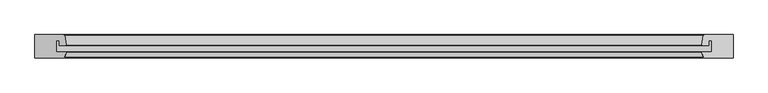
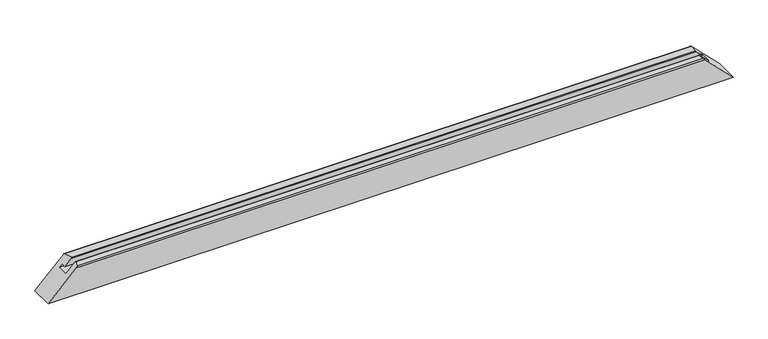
"""IFC4 building model written with IfcOpenShell, lengths in millimetres: proxy geometry, Weiku - Montante - Caixilho fixo 02.2.01.005 : Weiku - Montante - Caixilho fixo 02.2.01.005."""

from ifc_helpers import new_model, si_unit, frame, origin, place, context, project, spatial, ellipse_curve, source, transform, mapped, element, save
from ifc_brep_helpers import plane_surface, cylinder_surface, advanced_brep


def generic_models_b6c85634(model_context):
    return source(origin(), model_context, "Body", "AdvancedBrep", [
        advanced_brep(
        [(-680.618227, -38.5070552, 66.881773), (-681.3909676, -37.5, 66.1090324), (-701.5, -37.5, 46.0), (-701.5, -12.5, 46.0), (-695.5009154, -12.5, 51.9990846), (-695.5009154, -23.5, 51.9990846), (-681.4865015, -23.5, 66.0134985), (-680.4998537, -22.3371317, 67.0001463), (-684.0489094, -0.8371317, 63.4510906), (-685.0355572, 0.0, 62.4644428), (-747.5, 0.0, 0.0), (-747.5, -50.0, 0.0), (-685.9997332, -50.0, 61.5002668), (-683.1019557, -47.7764571, 64.3980443), (683.1019557, -47.7764571, 64.3980443), (685.9997332, -50.0, 61.5002668), (747.5, -50.0, 0.0), (747.5, 0.0, 0.0), (685.0355572, 0.0, 62.4644428), (684.0489094, -0.8371317, 63.4510906), (680.4998537, -22.3371317, 67.0001463), (681.4865015, -23.5, 66.0134985), (695.5009154, -23.5, 51.9990846), (695.5009154, -12.5, 51.9990846), (701.5, -12.5, 46.0), (701.5, -37.5, 46.0), (681.3909676, -37.5, 66.1090324), (680.618227, -38.5070552, 66.881773)],
        [
            (0, 1, ellipse_curve(frame((-681.3909676, -38.3, 66.1090324), z_axis=(-0.7071067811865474, 0.0, 0.7071067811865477), x_axis=(-0.7071067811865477, 0.0, -0.7071067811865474)), 1.1313708, 0.8)),
            (1, 2),
            (2, 3),
            (3, 4),
            (4, 5),
            (5, 6),
            (6, 7, ellipse_curve(frame((-681.4865015, -22.5, 66.0134985), z_axis=(-0.7071067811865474, 0.0, 0.7071067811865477), x_axis=(-0.7071067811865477, 0.0, -0.7071067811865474)), 1.4142136, 1.0)),
            (7, 8),
            (8, 9, ellipse_curve(frame((-685.0355572, -1.0, 62.4644428), z_axis=(-0.7071067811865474, 0.0, 0.7071067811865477), x_axis=(-0.7071067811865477, 0.0, -0.7071067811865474)), 1.4142136, 1.0)),
            (9, 10),
            (10, 11),
            (11, 12),
            (12, 13, ellipse_curve(frame((-685.9997332, -47.0, 61.5002668), z_axis=(-0.7071067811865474, 0.0, 0.7071067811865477), x_axis=(-0.7071067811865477, 0.0, -0.7071067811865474)), 4.2426407, 3.0)),
            (13, 0),
            (14, 15, ellipse_curve(frame((685.9997332, -47.0, 61.5002668), z_axis=(0.7071067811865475, 0.0, 0.7071067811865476), x_axis=(-0.7071067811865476, 0.0, 0.7071067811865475)), 4.2426407, 3.0)),
            (15, 16),
            (16, 17),
            (17, 18),
            (18, 19, ellipse_curve(frame((685.0355572, -1.0, 62.4644428), z_axis=(0.7071067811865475, 0.0, 0.7071067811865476), x_axis=(-0.7071067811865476, 0.0, 0.7071067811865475)), 1.4142136, 1.0)),
            (19, 20),
            (20, 21, ellipse_curve(frame((681.4865015, -22.5, 66.0134985), z_axis=(0.7071067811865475, 0.0, 0.7071067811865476), x_axis=(-0.7071067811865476, 0.0, 0.7071067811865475)), 1.4142136, 1.0)),
            (21, 22),
            (22, 23),
            (23, 24),
            (24, 25),
            (25, 26),
            (26, 27, ellipse_curve(frame((681.3909676, -38.3, 66.1090324), z_axis=(0.7071067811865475, 0.0, 0.7071067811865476), x_axis=(-0.7071067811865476, 0.0, 0.7071067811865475)), 1.1313708, 0.8)),
            (27, 14),
            (13, 14),
            (27, 0),
            (12, 15),
            (11, 16),
            (10, 17),
            (9, 18),
            (8, 19),
            (7, 20),
            (6, 21),
            (5, 22),
            (4, 23),
            (3, 24),
            (2, 25),
            (1, 26),
        ],
        [
            plane_surface(frame((-817.5, 15.0, -70.0), z_axis=(-0.7071067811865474, 0.0, 0.7071067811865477), x_axis=(0.0, -1.0, 0.0))),
            plane_surface(frame((677.5, 15.0, 70.0), z_axis=(0.7071067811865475, 0.0, 0.7071067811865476), x_axis=(0.0, -1.0, 0.0))),
            plane_surface(frame((-747.5, -38.5070552, 66.881773), z_axis=(0.0, -0.2588190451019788, 0.9659258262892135), x_axis=(1.0, 0.0, 0.0))),
            cylinder_surface(frame((-747.5, -47.0, 61.5002668), z_axis=(-1.0, 0.0, 0.0), x_axis=(0.0, 1.0, 0.0)), 3.0),
            plane_surface(frame((-747.5, -50.0, 61.5002668), z_axis=(0.0, -1.0, 0.0), x_axis=(1.0, 0.0, 0.0))),
            plane_surface(frame((-747.5, -50.0, 0.0), z_axis=(0.0, 0.0, -1.0), x_axis=(1.0, 0.0, 0.0))),
            plane_surface(frame((-747.5, 0.0, 0.0), z_axis=(0.0, 1.0, 0.0), x_axis=(1.0, 0.0, 0.0))),
            cylinder_surface(frame((-747.5, -1.0, 62.4644428), z_axis=(-1.0, 0.0, 0.0), x_axis=(0.0, -1.0, 0.0)), 1.0),
            plane_surface(frame((-747.5, -0.8371317, 63.4510906), z_axis=(0.0, 0.16286828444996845, 0.9866478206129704), x_axis=(1.0, 0.0, 0.0))),
            cylinder_surface(frame((-747.5, -22.5, 66.0134985), z_axis=(-1.0, 0.0, 0.0), x_axis=(0.0, -1.0, 0.0)), 1.0),
            plane_surface(frame((-747.5, -23.5, 66.0134985), z_axis=(0.0, -1.0, 0.0), x_axis=(1.0, 0.0, 0.0))),
            plane_surface(frame((-747.5, -23.5, 51.9990846), z_axis=(0.0, 0.0, -1.0), x_axis=(1.0, 0.0, 0.0))),
            plane_surface(frame((-747.5, -12.5, 51.9990846), z_axis=(0.0, -1.0, 0.0), x_axis=(1.0, 0.0, 0.0))),
            plane_surface(frame((-747.5, -12.5, 46.0), z_axis=(0.0, 0.0, 1.0), x_axis=(1.0, 0.0, 0.0))),
            plane_surface(frame((-747.5, -37.5, 46.0), z_axis=(0.0, 1.0, 0.0), x_axis=(1.0, 0.0, 0.0))),
            cylinder_surface(frame((-747.5, -38.3, 66.1090324), z_axis=(-1.0, 0.0, 0.0), x_axis=(0.0, 1.0, 0.0)), 0.8),
        ],
        [
            (0, [[1, 2, 3, 4, 5, 6, 7, 8, 9, 10, 11, 12, 13, 14]]),
            (1, [[15, 16, 17, 18, 19, 20, 21, 22, 23, 24, 25, 26, 27, 28]]),
            (2, [[29, -28, 30, -14]]),
            (3, [[31, -15, -29, -13]]),
            (4, [[-16, -31, -12, 32]]),
            (5, [[-11, 33, -17, -32]]),
            (6, [[-10, 34, -18, -33]]),
            (7, [[35, -19, -34, -9]]),
            (8, [[36, -20, -35, -8]]),
            (9, [[37, -21, -36, -7]]),
            (10, [[38, -22, -37, -6]]),
            (11, [[39, -23, -38, -5]]),
            (12, [[40, -24, -39, -4]]),
            (13, [[41, -25, -40, -3]]),
            (14, [[42, -26, -41, -2]]),
            (15, [[-30, -27, -42, -1]]),
        ],
    ),
    ])


if __name__ == "__main__":
    model = new_model("IFC4")
    model_context = context("Model", 3, world=origin())
    ifc_project = project(units=[si_unit("LENGTHUNIT", "METRE", prefix="MILLI")], contexts=[model_context])
    site = spatial("IfcSite", under=ifc_project)
    building = spatial("IfcBuilding", under=site)
    placement = place(None, origin())
    generic_models_shape = generic_models_b6c85634(model_context)
    element("IfcBuildingElementProxy", 1, Name="Weiku - Montante - Caixilho fixo 02.2.01.005 : Weiku - Montante - Caixilho fixo 02.2.01.005", ObjectType="Weiku - Montante - Caixilho fixo 02.2.01.005 : Weiku - Montante - Caixilho fixo 02.2.01.005", at=placement, inside=building, context=model_context, shape_type="MappedRepresentation", body=[
        mapped(generic_models_shape, transform((0.0, 0.0, 0.0), x_axis=(1.0, 0.0, 0.0), y_axis=(0.0, 1.0, 0.0), z_axis=(0.0, 0.0, 1.0))),
    ])
    save(model, "model.ifc")
